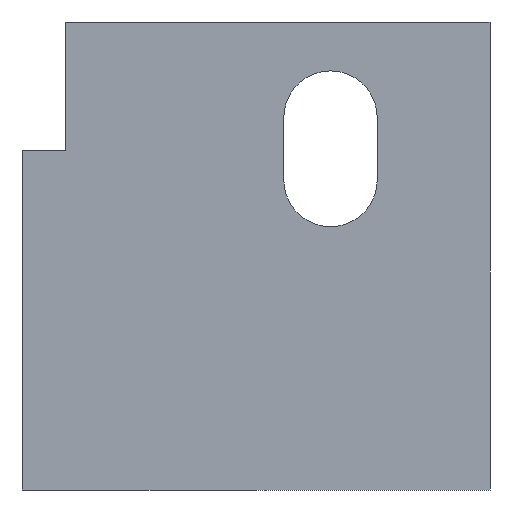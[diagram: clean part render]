
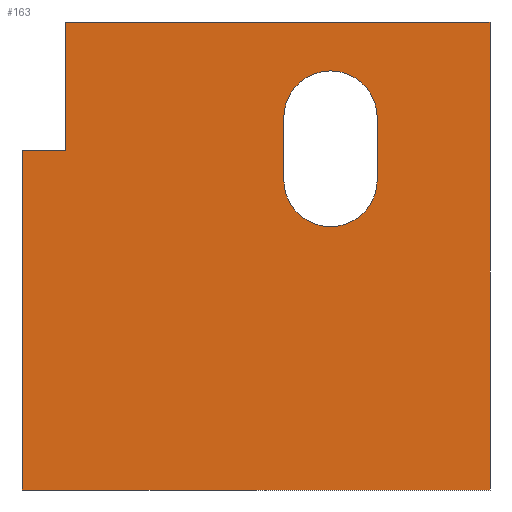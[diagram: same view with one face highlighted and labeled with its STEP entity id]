
A CAD part, left-side view. The second image highlights one B-rep face of the part: STEP entity #163.
In plain terms, the highlighted planar face has unit normal (-1, 0, 0).
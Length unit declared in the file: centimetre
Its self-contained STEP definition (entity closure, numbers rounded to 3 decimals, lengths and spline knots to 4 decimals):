
#19 = EDGE_CURVE ( 'NONE', #210, #523, #496, .T. ) ;
#24 = CARTESIAN_POINT ( 'NONE',  ( 0., 1000., 0. ) ) ;
#28 = LINE ( 'NONE', #141, #48 ) ;
#35 = LINE ( 'NONE', #671, #297 ) ;
#39 = EDGE_CURVE ( 'NONE', #451, #443, #461, .T. ) ;
#40 = EDGE_LOOP ( 'NONE', ( #153, #746, #221, #142, #401 ) ) ;
#48 = VECTOR ( 'NONE', #611, 100. ) ;
#52 = CARTESIAN_POINT ( 'NONE',  ( 0., 240.8978, 795.7471 ) ) ;
#55 = LINE ( 'NONE', #301, #464 ) ;
#67 = CARTESIAN_POINT ( 'NONE',  ( 0., 440.6455, 662.5173 ) ) ;
#74 = DIRECTION ( 'NONE',  ( 0., 0., -1. ) ) ;
#85 = DIRECTION ( 'NONE',  ( 0., 0., 1. ) ) ;
#87 = AXIS2_PLACEMENT_3D ( 'NONE', #732, #211, #85 ) ;
#101 = VERTEX_POINT ( 'NONE', #52 ) ;
#104 = CARTESIAN_POINT ( 'NONE',  ( 0., 440.6455, 795.7471 ) ) ;
#107 = EDGE_LOOP ( 'NONE', ( #229, #686, #627, #155, #572, #117 ) ) ;
#110 = EDGE_CURVE ( 'NONE', #328, #210, #55, .T. ) ;
#117 = ORIENTED_EDGE ( 'NONE', *, *, #380, .F. ) ;
#122 = CARTESIAN_POINT ( 'NONE',  ( 0., 907.3183, 1000. ) ) ;
#135 = FACE_BOUND ( 'NONE', #40, .T. ) ;
#139 = EDGE_CURVE ( 'NONE', #472, #734, #398, .T. ) ;
#141 = CARTESIAN_POINT ( 'NONE',  ( 0., 0., 1000. ) ) ;
#142 = ORIENTED_EDGE ( 'NONE', *, *, #139, .T. ) ;
#150 = DIRECTION ( 'NONE',  ( 0., -1., 0. ) ) ;
#153 = ORIENTED_EDGE ( 'NONE', *, *, #241, .T. ) ;
#154 = DIRECTION ( 'NONE',  ( 0., 0., 1. ) ) ;
#155 = ORIENTED_EDGE ( 'NONE', *, *, #19, .T. ) ;
#163 = ADVANCED_FACE ( 'NONE', ( #135, #190 ), #543, .F. ) ;
#169 = DIRECTION ( 'NONE',  ( 0., 0., -1. ) ) ;
#174 = VERTEX_POINT ( 'NONE', #497 ) ;
#176 = AXIS2_PLACEMENT_3D ( 'NONE', #505, #209, #154 ) ;
#188 = CARTESIAN_POINT ( 'NONE',  ( 0., 1000., 1000. ) ) ;
#190 = FACE_OUTER_BOUND ( 'NONE', #107, .T. ) ;
#199 = CARTESIAN_POINT ( 'NONE',  ( 0., 240.8978, 662.5173 ) ) ;
#209 = DIRECTION ( 'NONE',  ( 1., 0., 0. ) ) ;
#210 = VERTEX_POINT ( 'NONE', #24 ) ;
#211 = DIRECTION ( 'NONE',  ( 1., 0., 0. ) ) ;
#221 = ORIENTED_EDGE ( 'NONE', *, *, #577, .T. ) ;
#229 = ORIENTED_EDGE ( 'NONE', *, *, #39, .T. ) ;
#233 = CARTESIAN_POINT ( 'NONE',  ( 0., 907.3183, 724.8295 ) ) ;
#237 = EDGE_CURVE ( 'NONE', #443, #328, #707, .T. ) ;
#241 = EDGE_CURVE ( 'NONE', #101, #271, #606, .T. ) ;
#252 = CARTESIAN_POINT ( 'NONE',  ( 0., 240.8978, 662.5173 ) ) ;
#265 = CIRCLE ( 'NONE', #518, 99.8738 ) ;
#271 = VERTEX_POINT ( 'NONE', #199 ) ;
#292 = VERTEX_POINT ( 'NONE', #711 ) ;
#295 = EDGE_CURVE ( 'NONE', #271, #292, #601, .T. ) ;
#297 = VECTOR ( 'NONE', #150, 100. ) ;
#301 = CARTESIAN_POINT ( 'NONE',  ( 0., 1000., 1000. ) ) ;
#328 = VERTEX_POINT ( 'NONE', #522 ) ;
#340 = CARTESIAN_POINT ( 'NONE',  ( 0., 340.7716, 662.5173 ) ) ;
#341 = DIRECTION ( 'NONE',  ( 0., -1., 0. ) ) ;
#343 = CARTESIAN_POINT ( 'NONE',  ( 0., 440.6455, 795.7471 ) ) ;
#345 = DIRECTION ( 'NONE',  ( 0., 0., 1. ) ) ;
#359 = VECTOR ( 'NONE', #372, 100. ) ;
#372 = DIRECTION ( 'NONE',  ( 0., 1., 0. ) ) ;
#376 = DIRECTION ( 'NONE',  ( 0., 0., -1. ) ) ;
#380 = EDGE_CURVE ( 'NONE', #451, #174, #35, .T. ) ;
#393 = DIRECTION ( 'NONE',  ( 1., 0., 0. ) ) ;
#398 = LINE ( 'NONE', #104, #600 ) ;
#401 = ORIENTED_EDGE ( 'NONE', *, *, #649, .T. ) ;
#413 = VECTOR ( 'NONE', #341, 100. ) ;
#443 = VERTEX_POINT ( 'NONE', #598 ) ;
#451 = VERTEX_POINT ( 'NONE', #122 ) ;
#452 = VECTOR ( 'NONE', #74, 100. ) ;
#461 = LINE ( 'NONE', #233, #591 ) ;
#464 = VECTOR ( 'NONE', #748, 100. ) ;
#472 = VERTEX_POINT ( 'NONE', #67 ) ;
#483 = CARTESIAN_POINT ( 'NONE',  ( 0., 0., 0. ) ) ;
#496 = LINE ( 'NONE', #714, #413 ) ;
#497 = CARTESIAN_POINT ( 'NONE',  ( 0., 0., 1000. ) ) ;
#502 = CARTESIAN_POINT ( 'NONE',  ( 0., 907.3183, 724.8295 ) ) ;
#505 = CARTESIAN_POINT ( 'NONE',  ( 0., 340.7716, 795.7471 ) ) ;
#509 = DIRECTION ( 'NONE',  ( 0., 0., 1. ) ) ;
#518 = AXIS2_PLACEMENT_3D ( 'NONE', #340, #393, #509 ) ;
#522 = CARTESIAN_POINT ( 'NONE',  ( 0., 1000., 724.8295 ) ) ;
#523 = VERTEX_POINT ( 'NONE', #483 ) ;
#543 = PLANE ( 'NONE',  #673 ) ;
#560 = CIRCLE ( 'NONE', #176, 99.8738 ) ;
#572 = ORIENTED_EDGE ( 'NONE', *, *, #680, .F. ) ;
#577 = EDGE_CURVE ( 'NONE', #292, #472, #265, .T. ) ;
#591 = VECTOR ( 'NONE', #169, 100. ) ;
#597 = DIRECTION ( 'NONE',  ( 1., 0., 0. ) ) ;
#598 = CARTESIAN_POINT ( 'NONE',  ( 0., 907.3183, 724.8295 ) ) ;
#600 = VECTOR ( 'NONE', #345, 100. ) ;
#601 = CIRCLE ( 'NONE', #87, 99.8738 ) ;
#606 = LINE ( 'NONE', #252, #452 ) ;
#611 = DIRECTION ( 'NONE',  ( 0., 0., -1. ) ) ;
#627 = ORIENTED_EDGE ( 'NONE', *, *, #110, .T. ) ;
#649 = EDGE_CURVE ( 'NONE', #734, #101, #560, .T. ) ;
#671 = CARTESIAN_POINT ( 'NONE',  ( 0., 1000., 1000. ) ) ;
#673 = AXIS2_PLACEMENT_3D ( 'NONE', #188, #597, #376 ) ;
#680 = EDGE_CURVE ( 'NONE', #174, #523, #28, .T. ) ;
#686 = ORIENTED_EDGE ( 'NONE', *, *, #237, .T. ) ;
#707 = LINE ( 'NONE', #502, #359 ) ;
#711 = CARTESIAN_POINT ( 'NONE',  ( 0., 340.7716, 562.6435 ) ) ;
#714 = CARTESIAN_POINT ( 'NONE',  ( 0., 1000., 0. ) ) ;
#732 = CARTESIAN_POINT ( 'NONE',  ( 0., 340.7716, 662.5173 ) ) ;
#734 = VERTEX_POINT ( 'NONE', #343 ) ;
#746 = ORIENTED_EDGE ( 'NONE', *, *, #295, .T. ) ;
#748 = DIRECTION ( 'NONE',  ( 0., 0., -1. ) ) ;
